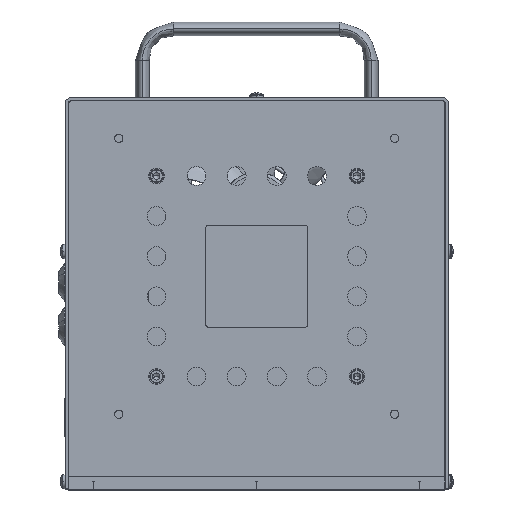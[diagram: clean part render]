
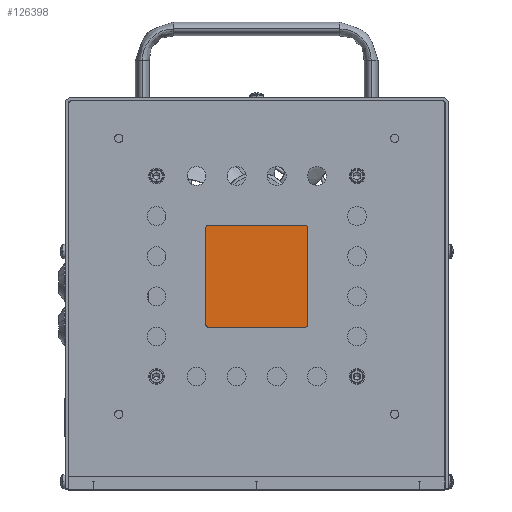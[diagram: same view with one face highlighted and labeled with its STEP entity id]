
A CAD part, top view. The second image highlights one B-rep face of the part: STEP entity #126398.
In plain terms, the highlighted planar face has unit normal (0, 0, 1).
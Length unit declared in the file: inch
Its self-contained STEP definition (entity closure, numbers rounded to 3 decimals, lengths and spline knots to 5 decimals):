
#10094 = DIRECTION ( 'NONE',  ( 0., -1., 0. ) ) ;
#10160 = VECTOR ( 'NONE', #10094, 39.37008 ) ;
#19594 = CARTESIAN_POINT ( 'NONE',  ( 1.5, 2.75, 2.065 ) ) ;
#21550 = DIRECTION ( 'NONE',  ( 1., 0., 0. ) ) ;
#24705 = LINE ( 'NONE', #107042, #129410 ) ;
#25104 = EDGE_CURVE ( 'NONE', #94923, #94090, #24705, .T. ) ;
#33760 = ORIENTED_EDGE ( 'NONE', *, *, #124824, .T. ) ;
#34450 = CARTESIAN_POINT ( 'NONE',  ( -1.5, 2.75, 2.065 ) ) ;
#35842 = AXIS2_PLACEMENT_3D ( 'NONE', #51694, #82315, #21550 ) ;
#37143 = LINE ( 'NONE', #100994, #10160 ) ;
#38599 = VERTEX_POINT ( 'NONE', #112677 ) ;
#42337 = CARTESIAN_POINT ( 'NONE',  ( -1.5, 5.75, 2.065 ) ) ;
#46387 = CARTESIAN_POINT ( 'NONE',  ( 1.5, 5.75, 2.065 ) ) ;
#47380 = LINE ( 'NONE', #34450, #104526 ) ;
#50747 = CARTESIAN_POINT ( 'NONE',  ( -1.5, 5.75, 2.065 ) ) ;
#51694 = CARTESIAN_POINT ( 'NONE',  ( -1.5, 2.75, 2.065 ) ) ;
#56062 = DIRECTION ( 'NONE',  ( 0., 1., 0. ) ) ;
#58900 = VECTOR ( 'NONE', #120374, 39.37008 ) ;
#71692 = EDGE_LOOP ( 'NONE', ( #80112, #33760, #106872, #100321 ) ) ;
#72093 = PLANE ( 'NONE',  #35842 ) ;
#73980 = EDGE_CURVE ( 'NONE', #99140, #38599, #37143, .T. ) ;
#80112 = ORIENTED_EDGE ( 'NONE', *, *, #73980, .T. ) ;
#82315 = DIRECTION ( 'NONE',  ( 0., 0., 1. ) ) ;
#85896 = LINE ( 'NONE', #50747, #58900 ) ;
#94090 = VERTEX_POINT ( 'NONE', #46387 ) ;
#94923 = VERTEX_POINT ( 'NONE', #19594 ) ;
#95236 = DIRECTION ( 'NONE',  ( 1., 0., 0. ) ) ;
#97932 = EDGE_CURVE ( 'NONE', #94090, #99140, #85896, .T. ) ;
#99140 = VERTEX_POINT ( 'NONE', #42337 ) ;
#100321 = ORIENTED_EDGE ( 'NONE', *, *, #97932, .T. ) ;
#100994 = CARTESIAN_POINT ( 'NONE',  ( -1.5, 5.75, 2.065 ) ) ;
#104526 = VECTOR ( 'NONE', #95236, 39.37008 ) ;
#106872 = ORIENTED_EDGE ( 'NONE', *, *, #25104, .T. ) ;
#107042 = CARTESIAN_POINT ( 'NONE',  ( 1.5, 5.75, 2.065 ) ) ;
#112677 = CARTESIAN_POINT ( 'NONE',  ( -1.5, 2.75, 2.065 ) ) ;
#116017 = FACE_OUTER_BOUND ( 'NONE', #71692, .T. ) ;
#120374 = DIRECTION ( 'NONE',  ( -1., 0., 0. ) ) ;
#124824 = EDGE_CURVE ( 'NONE', #38599, #94923, #47380, .T. ) ;
#126398 = ADVANCED_FACE ( 'NONE', ( #116017 ), #72093, .T. ) ;
#129410 = VECTOR ( 'NONE', #56062, 39.37008 ) ;
